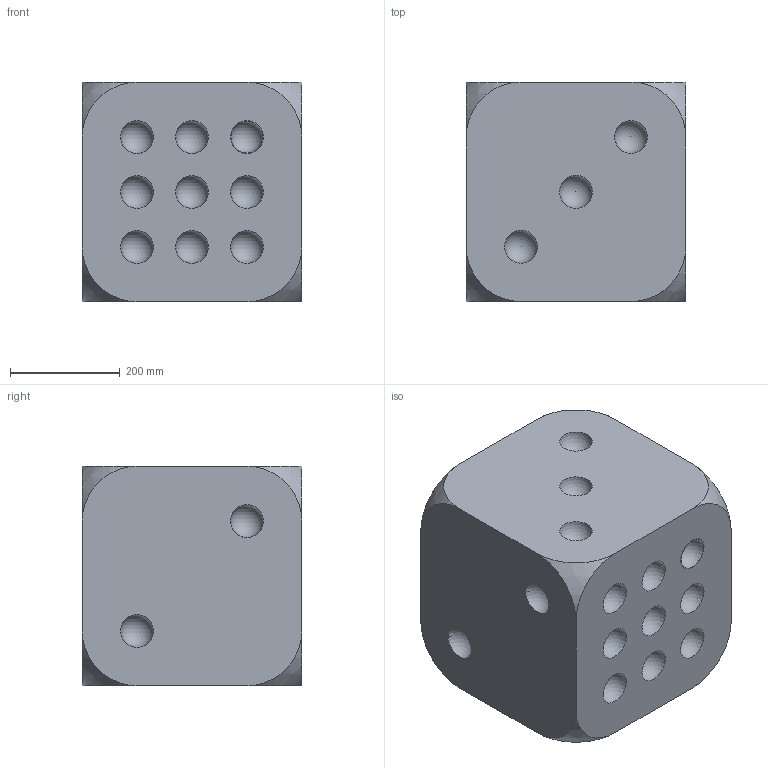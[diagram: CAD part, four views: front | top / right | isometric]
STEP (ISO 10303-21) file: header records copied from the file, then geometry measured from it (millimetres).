
FILE_DESCRIPTION(/* description */ ('Alibre Inc.'),/* implementation_level */ '2;1');
FILE_NAME(/* name */ 'export0',/* time_stamp */ '2012-06-04T15:32:13+02:00',/* author */ (''),/* organization */ (''),/* preprocessor_version */ 'ST-DEVELOPER v14',/* originating_system */ 'Alibre',/* authorisation */ '');
FILE_SCHEMA (('ALIBRE_SCHEMA','CONFIG_CONTROL_DESIGN'));
Length unit declared in the file: centimetre
Products named in the file (7): ID_1; ID_2; ID_3
Bounding box: 400 x 400 x 400 mm (x, y, z)
Surface area: 2035064 mm2
Topology: 4 solids, 4 shells, 83 faces, 279 edges, 167 vertices
Faces by surface type: sphere 67, plane 16
Entity records: 10896 total; most frequent: INTEGERVALUEPAIR 1368, REALVALUEPAIR 918, DIRECTION 718, BOOLEANVALUEPAIR 652, CARTESIAN_POINT 630, STRINGVALUEPAIR 570, PERSISTANTTOPOLOGYATTRIBUTE 526, OPERATIONTARGETPROXY 271
